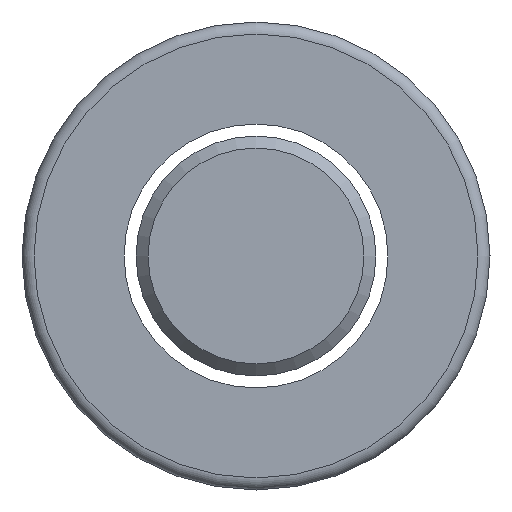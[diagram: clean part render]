
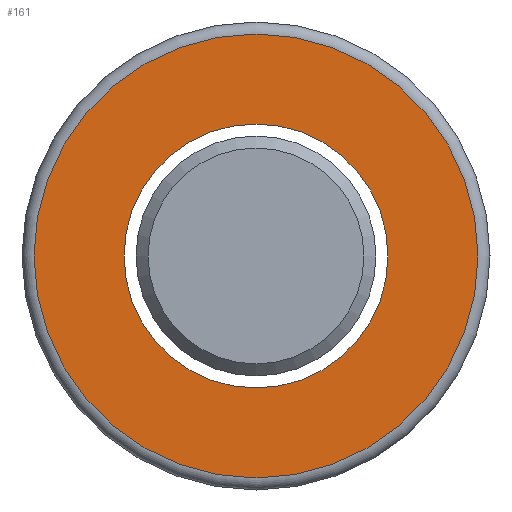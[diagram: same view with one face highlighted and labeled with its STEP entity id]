
A CAD part, left-side view. The second image highlights one B-rep face of the part: STEP entity #161.
In plain terms, the highlighted planar face has unit normal (-1, 0, 0).
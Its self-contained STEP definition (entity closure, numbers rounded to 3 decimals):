
#145=FACE_BOUND('',#214,.T.);
#161=ADVANCED_FACE('',(#145,#182),#171,.T.);
#171=PLANE('',#375);
#182=FACE_OUTER_BOUND('',#215,.T.);
#214=EDGE_LOOP('',(#256));
#215=EDGE_LOOP('',(#257));
#256=ORIENTED_EDGE('',*,*,#304,.T.);
#257=ORIENTED_EDGE('',*,*,#321,.F.);
#281=VERTEX_POINT('',#468);
#296=VERTEX_POINT('',#776);
#304=EDGE_CURVE('',#281,#281,#332,.T.);
#321=EDGE_CURVE('',#296,#296,#342,.T.);
#332=CIRCLE('',#354,5.5);
#342=CIRCLE('',#373,9.25);
#354=AXIS2_PLACEMENT_3D('',#467,#400,#401);
#373=AXIS2_PLACEMENT_3D('',#775,#440,#441);
#375=AXIS2_PLACEMENT_3D('',#778,#444,#445);
#400=DIRECTION('',(1.,0.,0.));
#401=DIRECTION('',(0.,0.,-1.));
#440=DIRECTION('',(1.,0.,0.));
#441=DIRECTION('',(0.,0.,-1.));
#444=DIRECTION('',(-1.,0.,0.));
#445=DIRECTION('',(0.,0.,1.));
#467=CARTESIAN_POINT('',(-32.,0.,0.));
#468=CARTESIAN_POINT('',(-32.,0.,-5.5));
#775=CARTESIAN_POINT('',(-32.,0.,0.));
#776=CARTESIAN_POINT('',(-32.,0.,-9.25));
#778=CARTESIAN_POINT('',(-32.,7.375,0.));
